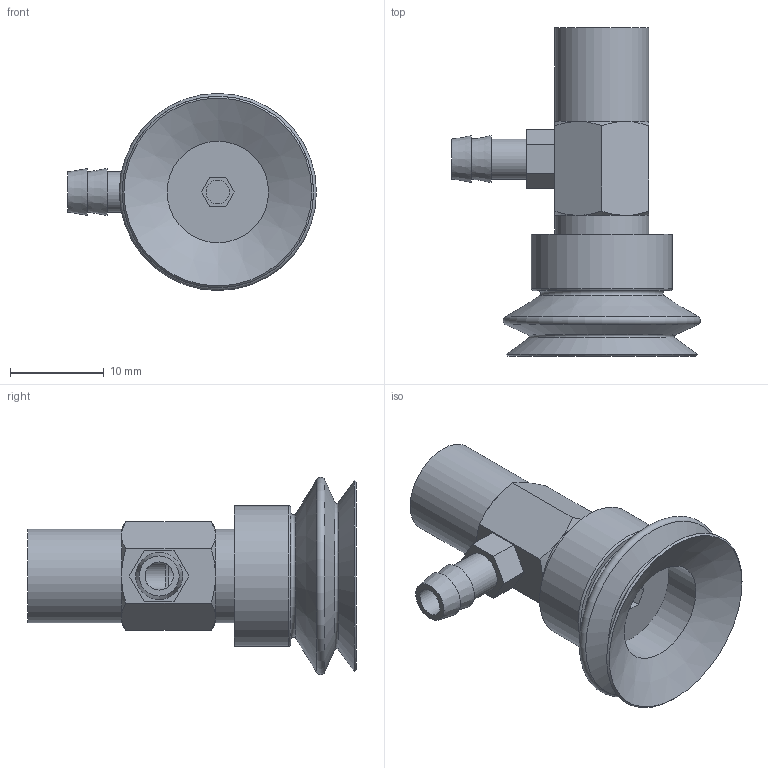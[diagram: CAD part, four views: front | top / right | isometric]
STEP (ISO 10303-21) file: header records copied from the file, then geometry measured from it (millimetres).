
FILE_DESCRIPTION(('STEP AP203'),'1');
FILE_NAME('.stp','2025-04-23T03:17:52',(' '),(' '),'Spatial InterOp 3D',' ',' ');
FILE_SCHEMA(('CONFIG_CONTROL_DESIGN'));
Length unit declared in the file: millimetre
Products named in the file (4): BBPJYK-20-※; Adapter-20-PJ; PJYK-20; BPJG-20-※
Assembly tree (3 placements, depth 2):
  BBPJYK-20-※
    Adapter-20-PJ
    PJYK-20
    BPJG-20-※
Bounding box: 26.5 x 35 x 21 mm (x, y, z)
Volume: 3710.5 mm3; surface area: 3635.8 mm2
Topology: 3 solids, 3 shells, 83 faces, 186 edges, 116 vertices
Faces by surface type: plane 35, cone 27, cylinder 14, torus 7
Full cylindrical faces by diameter (mm): 2.5 x1, 3 x2, 3.242 x1, 4.134 x1, 4.26 x1, 4.6 x1, 5 x1, 10 x2, 10.8 x1, 11 x1, 15 x1
Entity records: 2360 total; most frequent: CARTESIAN_POINT 505, DIRECTION 346, ORIENTED_EDGE 292, AXIS2_PLACEMENT_3D 148, EDGE_CURVE 146, EDGE_LOOP 126, VERTEX_POINT 107, FACE_OUTER_BOUND 102
